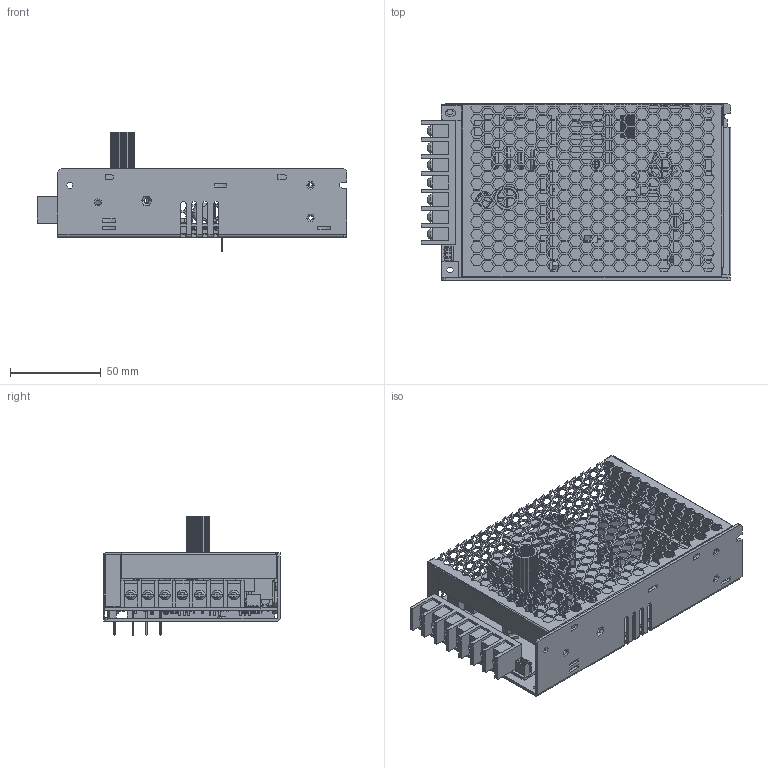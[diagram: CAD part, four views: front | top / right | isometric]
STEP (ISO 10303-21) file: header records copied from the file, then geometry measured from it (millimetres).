
FILE_DESCRIPTION(('Creo Elements/Direct Modeling STEP Export'),'2;1');
FILE_NAME('HRP-150N3.stp','2024-04-11T10:13:05',(''),(''),'PTC Creo Elements/Direct Modeling STEP processor for AP214 (Solid Model)','PTC Creo Elements/Direct Modeling 19.0E 27-Jun-2016 (C) Parametric Technology GmbH','');
FILE_SCHEMA(('AUTOMOTIVE_DESIGN { 1 0 10303 214 1 1 1 1 }'));
Length unit declared in the file: millimetre
Products named in the file (213): p1; p2; 1.2.1; 1.2.1.1; p2.1; p2.1.1; p2.2; JS100107; hs4; a2; 零件1; PCB; USER_LIBRARY-KBJ-GSIB.PRT; BD1.ASM; 2CU3-TCLT1008.PRT; U3.ASM; U2.ASM; SPHERE-395363.PRT; 1485128104.ASM; CYLINDER-395417.PRT; 1485128560.ASM; CYLINDER-395609.PRT; 1485128712.ASM; CYLINDER-395801.PRT; 1485128864.ASM; CYLINDER-395993.PRT; 1485129016.ASM; CYLINDER-396185.PRT; 1485129168.ASM; SPHERE-396377.PRT; 1485129320.ASM; RTH2.ASM; AN-2_RGB12632256.PRT; CYLINDER-204768.PRT; 1485152120.ASM.5; CYLINDER-204965.PRT; 1485152272.ASM; CYLINDER-205157.PRT; 1485152424.ASM; CYLINDER-205349.PRT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
Assembly tree (244 placements, depth 9):
  a2
    hs4
    JS100107
      p2.2
      p2.1.1
      p2.1
      1.2.1.1
      1.2.1
      p2
      p1
  HRP-150N3.stp
    HRP-150N
      case
        a
      下盖
        BASE
        M3-7L.1
      散热片
        HS230
          pin.1.1.1.2.1
          pin.1.1.1.2
          HS-230
        HS-318
        HS-229
          pin.1.1.1.1  x2
          p1
        HS-001E
      零件
        tn.1.1.1
        MOS15.5x11.1.1
        MOS15.5x11.1
        MOS15.5x11
        1
          MOS15.5x10.1.1.1.1.1.1.1
          MOS15.5x10.1.1.1.1.1.1  x2
          D2.ASM
            1485150448.ASM
              CYLINDER-437143.PRT
            761263840.ASM
              CYLINDER-436951.PRT
            1485149992.ASM
              CYLINDER-436759.PRT
            761263536.ASM
              CYLINDER-436567.PRT
            761264752.ASM
              CYLINDER-436375.PRT
            761264600.ASM
              CYLINDER-436183.PRT
            761264448.ASM
              SPHERE-436129.PRT
            761264296.ASM
              SPHERE-436075.PRT
            761264144.ASM
              CYLINDER-435883.PRT
            761263992.ASM
              CYLINDER-435691.PRT
          D3.ASM
            1485150448.ASM
              CYLINDER-437143.PRT
            761263840.ASM
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Bounding box: 170.5 x 97.1 x 65.66 mm (x, y, z)
Topology: 146 solids, 151 shells, 5830 faces, 16320 edges, 10748 vertices
Faces by surface type: plane 4692, cylinder 689, bspline 204, torus 146, sphere 79, cone 20
Entity records: 190844 total; most frequent: CARTESIAN_POINT 43100, ORIENTED_EDGE 29047, DIRECTION 25064, EDGE_CURVE 14528, VECTOR 12226, LINE 12226, VERTEX_POINT 9559, AXIS2_PLACEMENT_3D 6419
